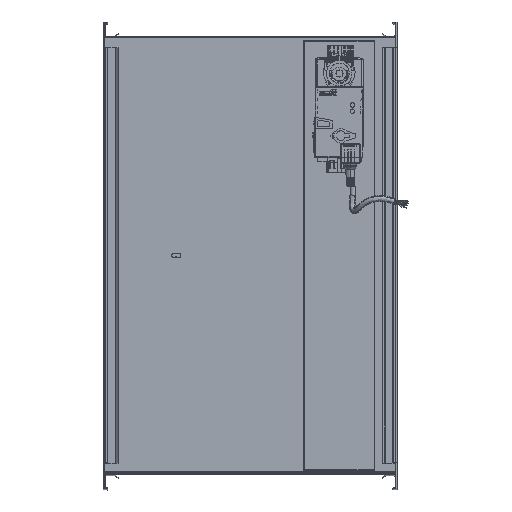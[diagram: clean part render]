
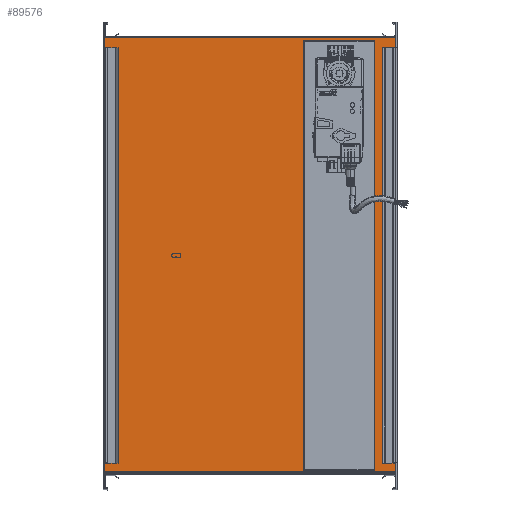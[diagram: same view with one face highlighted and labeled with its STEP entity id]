
A CAD part, top view. The second image highlights one B-rep face of the part: STEP entity #89576.
In plain terms, the highlighted planar face has unit normal (0, 0, 1).
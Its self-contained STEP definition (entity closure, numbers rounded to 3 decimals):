
#1026 = ORIENTED_EDGE ( 'NONE', *, *, #32819, .F. ) ;
#1158 = ORIENTED_EDGE ( 'NONE', *, *, #6709, .F. ) ;
#2035 = DIRECTION ( 'NONE',  ( 0., -1., 0. ) ) ;
#3675 = EDGE_LOOP ( 'NONE', ( #52557, #44643, #72030, #61665 ) ) ;
#3845 = CARTESIAN_POINT ( 'NONE',  ( 155.577, -283.848, 1550. ) ) ;
#6709 = EDGE_CURVE ( 'NONE', #56132, #35029, #53972, .T. ) ;
#9569 = VERTEX_POINT ( 'NONE', #53775 ) ;
#10335 = DIRECTION ( 'NONE',  ( 0., 1., 0. ) ) ;
#14491 = VERTEX_POINT ( 'NONE', #21407 ) ;
#16075 = DIRECTION ( 'NONE',  ( 1., 0., 0. ) ) ;
#16820 = VECTOR ( 'NONE', #83076, 1000. ) ;
#17499 = CARTESIAN_POINT ( 'NONE',  ( -244.423, -283.848, 1550. ) ) ;
#17721 = DIRECTION ( 'NONE',  ( 0., -1., 0. ) ) ;
#17973 = LINE ( 'NONE', #17499, #75740 ) ;
#21407 = CARTESIAN_POINT ( 'NONE',  ( -244.423, 312.152, 1550. ) ) ;
#23186 = DIRECTION ( 'NONE',  ( 1., 0., 0. ) ) ;
#24156 = FACE_OUTER_BOUND ( 'NONE', #3675, .T. ) ;
#24468 = LINE ( 'NONE', #81878, #84328 ) ;
#24534 = EDGE_CURVE ( 'NONE', #35029, #9569, #32718, .T. ) ;
#24733 = LINE ( 'NONE', #82607, #16820 ) ;
#25091 = CARTESIAN_POINT ( 'NONE',  ( 126.687, -281.848, 1550. ) ) ;
#26253 = LINE ( 'NONE', #3845, #50746 ) ;
#31797 = DIRECTION ( 'NONE',  ( 0., -1., 0. ) ) ;
#32718 = LINE ( 'NONE', #25091, #57039 ) ;
#32819 = EDGE_CURVE ( 'NONE', #40822, #56132, #24468, .T. ) ;
#33896 = EDGE_CURVE ( 'NONE', #14491, #83305, #38449, .T. ) ;
#35029 = VERTEX_POINT ( 'NONE', #63935 ) ;
#37326 = CARTESIAN_POINT ( 'NONE',  ( 28.687, 308.152, 1550. ) ) ;
#37539 = CARTESIAN_POINT ( 'NONE',  ( -244.423, -283.848, 1550. ) ) ;
#38449 = LINE ( 'NONE', #73850, #92027 ) ;
#39276 = ORIENTED_EDGE ( 'NONE', *, *, #71862, .F. ) ;
#40822 = VERTEX_POINT ( 'NONE', #37326 ) ;
#41264 = VERTEX_POINT ( 'NONE', #65458 ) ;
#44643 = ORIENTED_EDGE ( 'NONE', *, *, #33896, .F. ) ;
#48416 = CARTESIAN_POINT ( 'NONE',  ( 28.687, -281.848, 1550. ) ) ;
#49672 = VECTOR ( 'NONE', #82594, 1000. ) ;
#50746 = VECTOR ( 'NONE', #17721, 1000. ) ;
#52557 = ORIENTED_EDGE ( 'NONE', *, *, #68859, .F. ) ;
#53775 = CARTESIAN_POINT ( 'NONE',  ( 126.687, 308.152, 1550. ) ) ;
#53972 = LINE ( 'NONE', #61646, #87324 ) ;
#56132 = VERTEX_POINT ( 'NONE', #48416 ) ;
#57039 = VECTOR ( 'NONE', #10335, 1000. ) ;
#60593 = LINE ( 'NONE', #89746, #49672 ) ;
#61646 = CARTESIAN_POINT ( 'NONE',  ( 126.687, -281.848, 1550. ) ) ;
#61665 = ORIENTED_EDGE ( 'NONE', *, *, #79579, .T. ) ;
#63935 = CARTESIAN_POINT ( 'NONE',  ( 126.687, -281.848, 1550. ) ) ;
#65458 = CARTESIAN_POINT ( 'NONE',  ( 155.577, -283.848, 1550. ) ) ;
#68139 = FACE_BOUND ( 'NONE', #86107, .T. ) ;
#68252 = CARTESIAN_POINT ( 'NONE',  ( -244.423, -283.848, 1550. ) ) ;
#68859 = EDGE_CURVE ( 'NONE', #83305, #41264, #26253, .T. ) ;
#71862 = EDGE_CURVE ( 'NONE', #9569, #40822, #60593, .T. ) ;
#72030 = ORIENTED_EDGE ( 'NONE', *, *, #73318, .T. ) ;
#72780 = AXIS2_PLACEMENT_3D ( 'NONE', #37539, #81549, #16075 ) ;
#73318 = EDGE_CURVE ( 'NONE', #14491, #89143, #17973, .T. ) ;
#73850 = CARTESIAN_POINT ( 'NONE',  ( -244.423, 312.152, 1550. ) ) ;
#74820 = PLANE ( 'NONE',  #72780 ) ;
#75740 = VECTOR ( 'NONE', #31797, 1000. ) ;
#79579 = EDGE_CURVE ( 'NONE', #89143, #41264, #24733, .T. ) ;
#81549 = DIRECTION ( 'NONE',  ( 0., 0., 1. ) ) ;
#81878 = CARTESIAN_POINT ( 'NONE',  ( 28.687, -281.848, 1550. ) ) ;
#82594 = DIRECTION ( 'NONE',  ( -1., 0., 0. ) ) ;
#82607 = CARTESIAN_POINT ( 'NONE',  ( -244.423, -283.848, 1550. ) ) ;
#83076 = DIRECTION ( 'NONE',  ( 1., 0., 0. ) ) ;
#83305 = VERTEX_POINT ( 'NONE', #89952 ) ;
#83662 = DIRECTION ( 'NONE',  ( 1., 0., 0. ) ) ;
#84328 = VECTOR ( 'NONE', #2035, 1000. ) ;
#86107 = EDGE_LOOP ( 'NONE', ( #1158, #1026, #39276, #88700 ) ) ;
#87324 = VECTOR ( 'NONE', #83662, 1000. ) ;
#88700 = ORIENTED_EDGE ( 'NONE', *, *, #24534, .F. ) ;
#89143 = VERTEX_POINT ( 'NONE', #68252 ) ;
#89576 = ADVANCED_FACE ( 'NONE', ( #24156, #68139 ), #74820, .T. ) ;
#89746 = CARTESIAN_POINT ( 'NONE',  ( 126.687, 308.152, 1550. ) ) ;
#89952 = CARTESIAN_POINT ( 'NONE',  ( 155.577, 312.152, 1550. ) ) ;
#92027 = VECTOR ( 'NONE', #23186, 1000. ) ;
